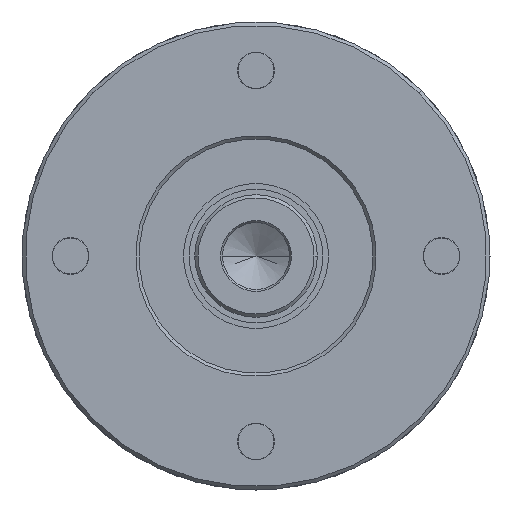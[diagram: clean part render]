
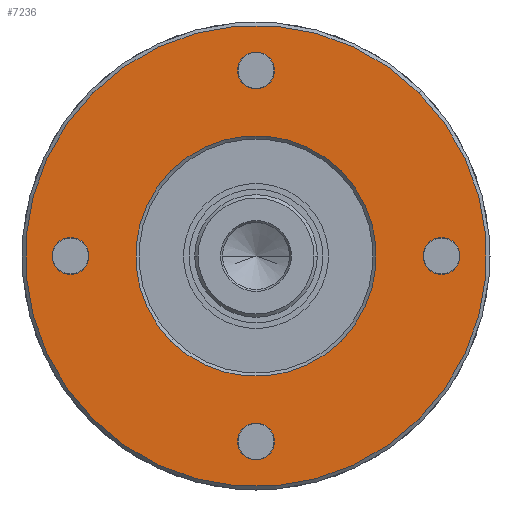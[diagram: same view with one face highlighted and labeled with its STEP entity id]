
A CAD part, left-side view. The second image highlights one B-rep face of the part: STEP entity #7236.
In plain terms, the highlighted planar face has unit normal (-1, 0, 0).
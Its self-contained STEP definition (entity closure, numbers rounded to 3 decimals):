
#6471=CARTESIAN_POINT('',(0.,11.773,-11.773));
#6472=DIRECTION('',(1.,0.,0.));
#6473=DIRECTION('',(0.,-1.,0.));
#6474=AXIS2_PLACEMENT_3D('',#6471,#6472,#6473);
#6479=CARTESIAN_POINT('',(0.,11.773,-11.773));
#6480=DIRECTION('',(1.,0.,0.));
#6481=DIRECTION('',(0.,1.,0.));
#6482=AXIS2_PLACEMENT_3D('',#6479,#6480,#6481);
#6487=CARTESIAN_POINT('',(0.,11.773,11.773));
#6488=DIRECTION('',(1.,0.,0.));
#6489=DIRECTION('',(0.,-1.,0.));
#6490=AXIS2_PLACEMENT_3D('',#6487,#6488,#6489);
#6495=CARTESIAN_POINT('',(0.,11.773,11.773));
#6496=DIRECTION('',(1.,0.,0.));
#6497=DIRECTION('',(0.,1.,0.));
#6498=AXIS2_PLACEMENT_3D('',#6495,#6496,#6497);
#6503=CARTESIAN_POINT('',(0.,-11.773,11.773));
#6504=DIRECTION('',(1.,0.,0.));
#6505=DIRECTION('',(0.,-1.,0.));
#6506=AXIS2_PLACEMENT_3D('',#6503,#6504,#6505);
#6511=CARTESIAN_POINT('',(0.,-11.773,11.773));
#6512=DIRECTION('',(1.,0.,0.));
#6513=DIRECTION('',(0.,1.,0.));
#6514=AXIS2_PLACEMENT_3D('',#6511,#6512,#6513);
#6519=CARTESIAN_POINT('',(0.,-11.773,-11.773));
#6520=DIRECTION('',(1.,0.,0.));
#6521=DIRECTION('',(0.,-1.,0.));
#6522=AXIS2_PLACEMENT_3D('',#6519,#6520,#6521);
#6527=CARTESIAN_POINT('',(0.,-11.773,-11.773));
#6528=DIRECTION('',(1.,0.,0.));
#6529=DIRECTION('',(0.,1.,0.));
#6530=AXIS2_PLACEMENT_3D('',#6527,#6528,#6529);
#6535=CARTESIAN_POINT('',(0.,0.,0.));
#6536=DIRECTION('',(-1.,0.,0.));
#6537=DIRECTION('',(0.,1.,0.));
#6538=AXIS2_PLACEMENT_3D('',#6535,#6536,#6537);
#6543=CARTESIAN_POINT('',(0.,0.,0.));
#6544=DIRECTION('',(-1.,0.,0.));
#6545=DIRECTION('',(0.,-1.,0.));
#6546=AXIS2_PLACEMENT_3D('',#6543,#6544,#6545);
#6551=CARTESIAN_POINT('',(0.,0.,0.));
#6552=DIRECTION('',(-1.,0.,0.));
#6553=DIRECTION('',(0.,-1.,0.));
#6554=AXIS2_PLACEMENT_3D('',#6551,#6552,#6553);
#6559=CARTESIAN_POINT('',(0.,0.,0.));
#6560=DIRECTION('',(-1.,0.,0.));
#6561=DIRECTION('',(0.,1.,0.));
#6562=AXIS2_PLACEMENT_3D('',#6559,#6560,#6561);
#7115=CARTESIAN_POINT('',(0.,10.123,-11.773));
#7116=CARTESIAN_POINT('',(0.,13.423,-11.773));
#7117=VERTEX_POINT('',#7115);
#7118=VERTEX_POINT('',#7116);
#7123=CARTESIAN_POINT('',(0.,10.123,11.773));
#7124=CARTESIAN_POINT('',(0.,13.423,11.773));
#7125=VERTEX_POINT('',#7123);
#7126=VERTEX_POINT('',#7124);
#7131=CARTESIAN_POINT('',(0.,-13.423,11.773));
#7132=CARTESIAN_POINT('',(0.,-10.123,11.773));
#7133=VERTEX_POINT('',#7131);
#7134=VERTEX_POINT('',#7132);
#7139=CARTESIAN_POINT('',(0.,-13.423,-11.773));
#7140=CARTESIAN_POINT('',(0.,-10.123,-11.773));
#7141=VERTEX_POINT('',#7139);
#7142=VERTEX_POINT('',#7140);
#7167=CARTESIAN_POINT('',(0.,20.7,0.));
#7168=CARTESIAN_POINT('',(0.,-20.7,0.));
#7169=VERTEX_POINT('',#7167);
#7170=VERTEX_POINT('',#7168);
#7183=CARTESIAN_POINT('',(0.,-10.8,0.));
#7184=CARTESIAN_POINT('',(0.,10.8,0.));
#7185=VERTEX_POINT('',#7183);
#7186=VERTEX_POINT('',#7184);
#7195=CARTESIAN_POINT('',(0.,0.,0.));
#7196=DIRECTION('',(1.,0.,0.));
#7197=DIRECTION('',(0.,-1.,0.));
#7198=AXIS2_PLACEMENT_3D('',#7195,#7196,#7197);
#7199=PLANE('',#7198);
#7201=ORIENTED_EDGE('',*,*,#7200,.F.);
#7203=ORIENTED_EDGE('',*,*,#7202,.F.);
#7204=EDGE_LOOP('',(#7201,#7203));
#7205=FACE_OUTER_BOUND('',#7204,.F.);
#7207=ORIENTED_EDGE('',*,*,#7206,.F.);
#7209=ORIENTED_EDGE('',*,*,#7208,.F.);
#7210=EDGE_LOOP('',(#7207,#7209));
#7211=FACE_BOUND('',#7210,.F.);
#7213=ORIENTED_EDGE('',*,*,#7212,.F.);
#7215=ORIENTED_EDGE('',*,*,#7214,.F.);
#7216=EDGE_LOOP('',(#7213,#7215));
#7217=FACE_BOUND('',#7216,.F.);
#7219=ORIENTED_EDGE('',*,*,#7218,.F.);
#7221=ORIENTED_EDGE('',*,*,#7220,.F.);
#7222=EDGE_LOOP('',(#7219,#7221));
#7223=FACE_BOUND('',#7222,.F.);
#7225=ORIENTED_EDGE('',*,*,#7224,.F.);
#7227=ORIENTED_EDGE('',*,*,#7226,.F.);
#7228=EDGE_LOOP('',(#7225,#7227));
#7229=FACE_BOUND('',#7228,.F.);
#7231=ORIENTED_EDGE('',*,*,#7230,.T.);
#7233=ORIENTED_EDGE('',*,*,#7232,.T.);
#7234=EDGE_LOOP('',(#7231,#7233));
#7235=FACE_BOUND('',#7234,.F.);
#6475=CIRCLE('',#6474,1.65);
#6483=CIRCLE('',#6482,1.65);
#6491=CIRCLE('',#6490,1.65);
#6499=CIRCLE('',#6498,1.65);
#6507=CIRCLE('',#6506,1.65);
#6515=CIRCLE('',#6514,1.65);
#6523=CIRCLE('',#6522,1.65);
#6531=CIRCLE('',#6530,1.65);
#6539=CIRCLE('',#6538,20.7);
#6547=CIRCLE('',#6546,20.7);
#6555=CIRCLE('',#6554,10.8);
#6563=CIRCLE('',#6562,10.8);
#7200=EDGE_CURVE('',#7169,#7170,#6539,.T.);
#7202=EDGE_CURVE('',#7170,#7169,#6547,.T.);
#7206=EDGE_CURVE('',#7125,#7126,#6491,.T.);
#7208=EDGE_CURVE('',#7126,#7125,#6499,.T.);
#7212=EDGE_CURVE('',#7133,#7134,#6507,.T.);
#7214=EDGE_CURVE('',#7134,#7133,#6515,.T.);
#7218=EDGE_CURVE('',#7141,#7142,#6523,.T.);
#7220=EDGE_CURVE('',#7142,#7141,#6531,.T.);
#7224=EDGE_CURVE('',#7117,#7118,#6475,.T.);
#7226=EDGE_CURVE('',#7118,#7117,#6483,.T.);
#7230=EDGE_CURVE('',#7185,#7186,#6555,.T.);
#7232=EDGE_CURVE('',#7186,#7185,#6563,.T.);
#7236=ADVANCED_FACE('',(#7205,#7211,#7217,#7223,#7229,#7235),#7199,.F.);
